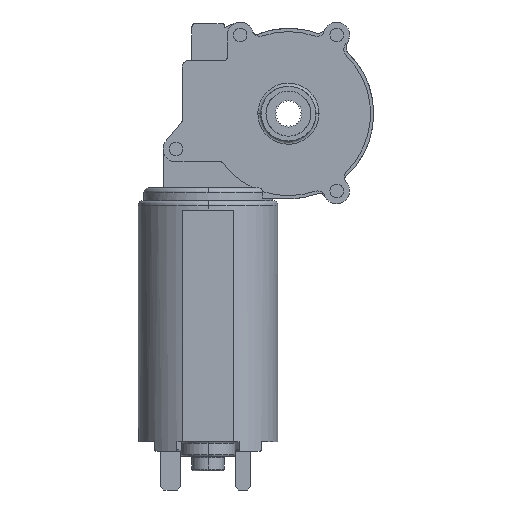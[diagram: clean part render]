
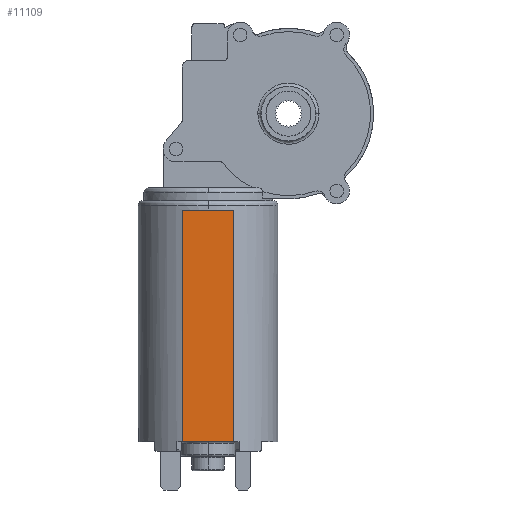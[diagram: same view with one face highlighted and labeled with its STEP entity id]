
A CAD part, left-side view. The second image highlights one B-rep face of the part: STEP entity #11109.
In plain terms, the highlighted planar face has unit normal (-1, 0, 0).
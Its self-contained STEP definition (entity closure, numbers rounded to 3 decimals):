
#495 = VERTEX_POINT ( 'NONE', #8487 ) ;
#626 = VECTOR ( 'NONE', #9192, 1000. ) ;
#652 = LINE ( 'NONE', #9217, #626 ) ;
#970 = EDGE_CURVE ( 'NONE', #6285, #495, #4456, .T. ) ;
#1241 = DIRECTION ( 'NONE',  ( 1., 0., 0. ) ) ;
#1252 = DIRECTION ( 'NONE',  ( 0., 0., -1. ) ) ;
#1372 = FACE_OUTER_BOUND ( 'NONE', #2422, .T. ) ;
#1714 = CARTESIAN_POINT ( 'NONE',  ( -20.2, -32.928, -102. ) ) ;
#2059 = PLANE ( 'NONE',  #7087 ) ;
#2246 = EDGE_CURVE ( 'NONE', #495, #7228, #652, .T. ) ;
#2422 = EDGE_LOOP ( 'NONE', ( #2630, #7781, #2721, #6644 ) ) ;
#2501 = CARTESIAN_POINT ( 'NONE',  ( -20.2, -17.072, -102. ) ) ;
#2630 = ORIENTED_EDGE ( 'NONE', *, *, #3010, .F. ) ;
#2721 = ORIENTED_EDGE ( 'NONE', *, *, #970, .F. ) ;
#3010 = EDGE_CURVE ( 'NONE', #7228, #5385, #10154, .T. ) ;
#3084 = EDGE_CURVE ( 'NONE', #6285, #5385, #9920, .T. ) ;
#4405 = VECTOR ( 'NONE', #8015, 1000. ) ;
#4456 = LINE ( 'NONE', #8238, #4405 ) ;
#5385 = VERTEX_POINT ( 'NONE', #10929 ) ;
#5532 = CARTESIAN_POINT ( 'NONE',  ( -20.2, -32.928, -30. ) ) ;
#6285 = VERTEX_POINT ( 'NONE', #2501 ) ;
#6392 = DIRECTION ( 'NONE',  ( 0., -1., 0. ) ) ;
#6457 = CARTESIAN_POINT ( 'NONE',  ( -20.2, -25., -102. ) ) ;
#6644 = ORIENTED_EDGE ( 'NONE', *, *, #3084, .T. ) ;
#7087 = AXIS2_PLACEMENT_3D ( 'NONE', #1714, #1241, #1252 ) ;
#7113 = CARTESIAN_POINT ( 'NONE',  ( -20.2, -32.928, -102. ) ) ;
#7168 = DIRECTION ( 'NONE',  ( 0., 0., -1. ) ) ;
#7228 = VERTEX_POINT ( 'NONE', #5532 ) ;
#7781 = ORIENTED_EDGE ( 'NONE', *, *, #2246, .F. ) ;
#8015 = DIRECTION ( 'NONE',  ( 0., 0., 1. ) ) ;
#8238 = CARTESIAN_POINT ( 'NONE',  ( -20.2, -17.072, -102. ) ) ;
#8487 = CARTESIAN_POINT ( 'NONE',  ( -20.2, -17.072, -30. ) ) ;
#9192 = DIRECTION ( 'NONE',  ( 0., -1., 0. ) ) ;
#9217 = CARTESIAN_POINT ( 'NONE',  ( -20.2, -32.928, -30. ) ) ;
#9896 = VECTOR ( 'NONE', #6392, 1000. ) ;
#9920 = LINE ( 'NONE', #6457, #9896 ) ;
#10143 = VECTOR ( 'NONE', #7168, 1000. ) ;
#10154 = LINE ( 'NONE', #7113, #10143 ) ;
#10929 = CARTESIAN_POINT ( 'NONE',  ( -20.2, -32.928, -102. ) ) ;
#11109 = ADVANCED_FACE ( 'NONE', ( #1372 ), #2059, .F. ) ;
